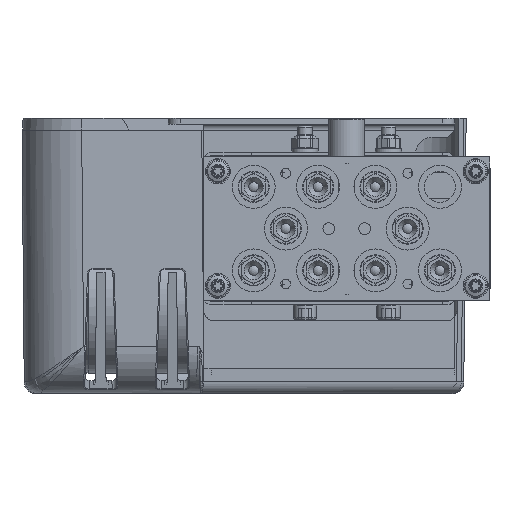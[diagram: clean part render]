
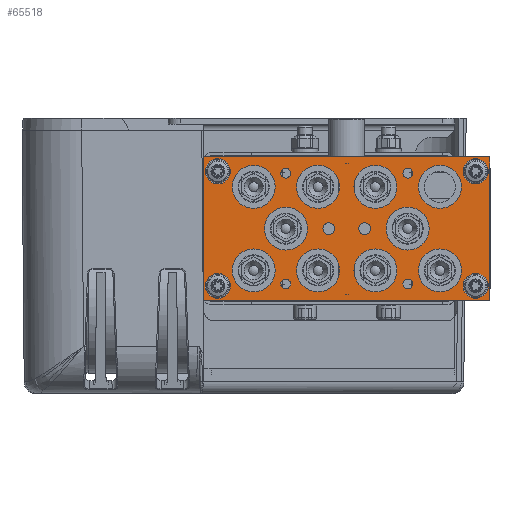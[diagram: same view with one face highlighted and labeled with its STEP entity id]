
A CAD part, left-side view. The second image highlights one B-rep face of the part: STEP entity #65518.
In plain terms, the highlighted planar face has unit normal (-1, 0, 0) as drawn and (0, 0, 1) by its records, which use the part's own axes.
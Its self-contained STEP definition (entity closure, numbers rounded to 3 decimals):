
#5920=LINE('',#113017,#8633);
#5924=LINE('',#113028,#8637);
#5928=LINE('',#113173,#8641);
#5929=LINE('',#113174,#8642);
#8633=VECTOR('',#76492,1000.);
#8637=VECTOR('',#76500,1000.);
#8641=VECTOR('',#76660,1000.);
#8642=VECTOR('',#76661,1000.);
#10747=PLANE('',#69451);
#16174=ORIENTED_EDGE('',*,*,#29800,.F.);
#16175=ORIENTED_EDGE('',*,*,#29801,.F.);
#16176=ORIENTED_EDGE('',*,*,#29802,.F.);
#16177=ORIENTED_EDGE('',*,*,#29803,.F.);
#16178=ORIENTED_EDGE('',*,*,#29804,.F.);
#16179=ORIENTED_EDGE('',*,*,#29805,.F.);
#16180=ORIENTED_EDGE('',*,*,#29806,.T.);
#16181=ORIENTED_EDGE('',*,*,#29807,.T.);
#16182=ORIENTED_EDGE('',*,*,#29808,.T.);
#16183=ORIENTED_EDGE('',*,*,#29809,.T.);
#16184=ORIENTED_EDGE('',*,*,#29810,.T.);
#16185=ORIENTED_EDGE('',*,*,#29811,.T.);
#16186=ORIENTED_EDGE('',*,*,#29812,.T.);
#16187=ORIENTED_EDGE('',*,*,#29742,.T.);
#16188=ORIENTED_EDGE('',*,*,#29813,.T.);
#16189=ORIENTED_EDGE('',*,*,#29747,.T.);
#16190=ORIENTED_EDGE('',*,*,#29814,.T.);
#16191=ORIENTED_EDGE('',*,*,#29815,.T.);
#16192=ORIENTED_EDGE('',*,*,#29816,.T.);
#16193=ORIENTED_EDGE('',*,*,#29817,.T.);
#16194=ORIENTED_EDGE('',*,*,#29818,.T.);
#16195=ORIENTED_EDGE('',*,*,#29819,.T.);
#16196=ORIENTED_EDGE('',*,*,#29820,.T.);
#16197=ORIENTED_EDGE('',*,*,#29821,.T.);
#29742=EDGE_CURVE('',#36840,#36839,#5920,.T.);
#29747=EDGE_CURVE('',#36845,#36844,#5924,.T.);
#29800=EDGE_CURVE('',#36895,#36895,#41340,.T.);
#29801=EDGE_CURVE('',#36896,#36896,#41341,.T.);
#29802=EDGE_CURVE('',#36897,#36897,#41342,.T.);
#29803=EDGE_CURVE('',#36898,#36898,#41343,.T.);
#29804=EDGE_CURVE('',#36899,#36899,#41344,.T.);
#29805=EDGE_CURVE('',#36900,#36900,#41345,.T.);
#29806=EDGE_CURVE('',#36901,#36901,#41346,.T.);
#29807=EDGE_CURVE('',#36902,#36902,#41347,.T.);
#29808=EDGE_CURVE('',#36903,#36903,#41348,.T.);
#29809=EDGE_CURVE('',#36904,#36904,#41349,.T.);
#29810=EDGE_CURVE('',#36905,#36905,#41350,.T.);
#29811=EDGE_CURVE('',#36906,#36906,#41351,.T.);
#29812=EDGE_CURVE('',#36907,#36907,#41352,.T.);
#29813=EDGE_CURVE('',#36839,#36845,#5928,.T.);
#29814=EDGE_CURVE('',#36844,#36840,#5929,.T.);
#29815=EDGE_CURVE('',#36908,#36908,#41353,.T.);
#29816=EDGE_CURVE('',#36909,#36909,#41354,.T.);
#29817=EDGE_CURVE('',#36910,#36910,#41355,.T.);
#29818=EDGE_CURVE('',#36911,#36911,#41356,.T.);
#29819=EDGE_CURVE('',#36912,#36912,#41357,.T.);
#29820=EDGE_CURVE('',#36913,#36913,#41358,.T.);
#29821=EDGE_CURVE('',#36914,#36914,#41359,.T.);
#36839=VERTEX_POINT('',#113016);
#36840=VERTEX_POINT('',#113018);
#36844=VERTEX_POINT('',#113027);
#36845=VERTEX_POINT('',#113029);
#36895=VERTEX_POINT('',#113148);
#36896=VERTEX_POINT('',#113150);
#36897=VERTEX_POINT('',#113152);
#36898=VERTEX_POINT('',#113154);
#36899=VERTEX_POINT('',#113156);
#36900=VERTEX_POINT('',#113158);
#36901=VERTEX_POINT('',#113160);
#36902=VERTEX_POINT('',#113162);
#36903=VERTEX_POINT('',#113164);
#36904=VERTEX_POINT('',#113166);
#36905=VERTEX_POINT('',#113168);
#36906=VERTEX_POINT('',#113170);
#36907=VERTEX_POINT('',#113172);
#36908=VERTEX_POINT('',#113176);
#36909=VERTEX_POINT('',#113178);
#36910=VERTEX_POINT('',#113180);
#36911=VERTEX_POINT('',#113182);
#36912=VERTEX_POINT('',#113184);
#36913=VERTEX_POINT('',#113186);
#36914=VERTEX_POINT('',#113188);
#41340=CIRCLE('',#69452,2.067);
#41341=CIRCLE('',#69453,2.067);
#41342=CIRCLE('',#69454,2.067);
#41343=CIRCLE('',#69455,2.067);
#41344=CIRCLE('',#69456,2.459);
#41345=CIRCLE('',#69457,2.459);
#41346=CIRCLE('',#69458,9.);
#41347=CIRCLE('',#69459,9.);
#41348=CIRCLE('',#69460,9.);
#41349=CIRCLE('',#69461,9.);
#41350=CIRCLE('',#69462,9.);
#41351=CIRCLE('',#69463,5.25);
#41352=CIRCLE('',#69464,5.25);
#41353=CIRCLE('',#69465,5.25);
#41354=CIRCLE('',#69466,9.);
#41355=CIRCLE('',#69467,9.);
#41356=CIRCLE('',#69468,9.);
#41357=CIRCLE('',#69469,9.);
#41358=CIRCLE('',#69470,9.);
#41359=CIRCLE('',#69471,5.25);
#43874=EDGE_LOOP('',(#16174));
#43875=EDGE_LOOP('',(#16175));
#43876=EDGE_LOOP('',(#16176));
#43877=EDGE_LOOP('',(#16177));
#43878=EDGE_LOOP('',(#16178));
#43879=EDGE_LOOP('',(#16179));
#43880=EDGE_LOOP('',(#16180));
#43881=EDGE_LOOP('',(#16181));
#43882=EDGE_LOOP('',(#16182));
#43883=EDGE_LOOP('',(#16183));
#43884=EDGE_LOOP('',(#16184));
#43885=EDGE_LOOP('',(#16185));
#43886=EDGE_LOOP('',(#16186));
#43887=EDGE_LOOP('',(#16187,#16188,#16189,#16190));
#43888=EDGE_LOOP('',(#16191));
#43889=EDGE_LOOP('',(#16192));
#43890=EDGE_LOOP('',(#16193));
#43891=EDGE_LOOP('',(#16194));
#43892=EDGE_LOOP('',(#16195));
#43893=EDGE_LOOP('',(#16196));
#43894=EDGE_LOOP('',(#16197));
#47870=FACE_BOUND('',#43874,.T.);
#47871=FACE_BOUND('',#43875,.T.);
#47872=FACE_BOUND('',#43876,.T.);
#47873=FACE_BOUND('',#43877,.T.);
#47874=FACE_BOUND('',#43878,.T.);
#47875=FACE_BOUND('',#43879,.T.);
#47876=FACE_BOUND('',#43880,.T.);
#47877=FACE_BOUND('',#43881,.T.);
#47878=FACE_BOUND('',#43882,.T.);
#47879=FACE_BOUND('',#43883,.T.);
#47880=FACE_BOUND('',#43884,.T.);
#47881=FACE_BOUND('',#43885,.T.);
#47882=FACE_BOUND('',#43886,.T.);
#47883=FACE_BOUND('',#43887,.T.);
#47884=FACE_BOUND('',#43888,.T.);
#47885=FACE_BOUND('',#43889,.T.);
#47886=FACE_BOUND('',#43890,.T.);
#47887=FACE_BOUND('',#43891,.T.);
#47888=FACE_BOUND('',#43892,.T.);
#47889=FACE_BOUND('',#43893,.T.);
#47890=FACE_BOUND('',#43894,.T.);
#65518=ADVANCED_FACE('',(#47870,#47871,#47872,#47873,#47874,#47875,#47876,
#47877,#47878,#47879,#47880,#47881,#47882,#47883,#47884,#47885,#47886,#47887,
#47888,#47889,#47890),#10747,.T.);
#69451=AXIS2_PLACEMENT_3D('',#113146,#76632,#76633);
#69452=AXIS2_PLACEMENT_3D('',#113147,#76634,#76635);
#69453=AXIS2_PLACEMENT_3D('',#113149,#76636,#76637);
#69454=AXIS2_PLACEMENT_3D('',#113151,#76638,#76639);
#69455=AXIS2_PLACEMENT_3D('',#113153,#76640,#76641);
#69456=AXIS2_PLACEMENT_3D('',#113155,#76642,#76643);
#69457=AXIS2_PLACEMENT_3D('',#113157,#76644,#76645);
#69458=AXIS2_PLACEMENT_3D('',#113159,#76646,#76647);
#69459=AXIS2_PLACEMENT_3D('',#113161,#76648,#76649);
#69460=AXIS2_PLACEMENT_3D('',#113163,#76650,#76651);
#69461=AXIS2_PLACEMENT_3D('',#113165,#76652,#76653);
#69462=AXIS2_PLACEMENT_3D('',#113167,#76654,#76655);
#69463=AXIS2_PLACEMENT_3D('',#113169,#76656,#76657);
#69464=AXIS2_PLACEMENT_3D('',#113171,#76658,#76659);
#69465=AXIS2_PLACEMENT_3D('',#113175,#76662,#76663);
#69466=AXIS2_PLACEMENT_3D('',#113177,#76664,#76665);
#69467=AXIS2_PLACEMENT_3D('',#113179,#76666,#76667);
#69468=AXIS2_PLACEMENT_3D('',#113181,#76668,#76669);
#69469=AXIS2_PLACEMENT_3D('',#113183,#76670,#76671);
#69470=AXIS2_PLACEMENT_3D('',#113185,#76672,#76673);
#69471=AXIS2_PLACEMENT_3D('',#113187,#76674,#76675);
#76492=DIRECTION('',(-1.,0.,0.));
#76500=DIRECTION('',(1.,0.,0.));
#76632=DIRECTION('',(0.,0.,1.));
#76633=DIRECTION('',(1.,0.,0.));
#76634=DIRECTION('',(0.,0.,1.));
#76635=DIRECTION('',(1.,0.,0.));
#76636=DIRECTION('',(0.,0.,1.));
#76637=DIRECTION('',(1.,0.,0.));
#76638=DIRECTION('',(0.,0.,1.));
#76639=DIRECTION('',(1.,0.,0.));
#76640=DIRECTION('',(0.,0.,1.));
#76641=DIRECTION('',(1.,0.,0.));
#76642=DIRECTION('',(0.,0.,1.));
#76643=DIRECTION('',(1.,0.,0.));
#76644=DIRECTION('',(0.,0.,1.));
#76645=DIRECTION('',(1.,0.,0.));
#76646=DIRECTION('',(0.,0.,-1.));
#76647=DIRECTION('',(1.,0.,0.));
#76648=DIRECTION('',(0.,0.,-1.));
#76649=DIRECTION('',(1.,0.,0.));
#76650=DIRECTION('',(0.,0.,-1.));
#76651=DIRECTION('',(1.,0.,0.));
#76652=DIRECTION('',(0.,0.,-1.));
#76653=DIRECTION('',(1.,0.,0.));
#76654=DIRECTION('',(0.,0.,-1.));
#76655=DIRECTION('',(1.,0.,0.));
#76656=DIRECTION('',(0.,0.,-1.));
#76657=DIRECTION('',(1.,0.,0.));
#76658=DIRECTION('',(0.,0.,-1.));
#76659=DIRECTION('',(1.,0.,0.));
#76660=DIRECTION('',(0.,-1.,0.));
#76661=DIRECTION('',(0.,1.,0.));
#76662=DIRECTION('',(0.,0.,-1.));
#76663=DIRECTION('',(1.,0.,0.));
#76664=DIRECTION('',(0.,0.,-1.));
#76665=DIRECTION('',(1.,0.,0.));
#76666=DIRECTION('',(0.,0.,-1.));
#76667=DIRECTION('',(1.,0.,0.));
#76668=DIRECTION('',(0.,0.,-1.));
#76669=DIRECTION('',(1.,0.,0.));
#76670=DIRECTION('',(0.,0.,-1.));
#76671=DIRECTION('',(1.,0.,0.));
#76672=DIRECTION('',(0.,0.,-1.));
#76673=DIRECTION('',(1.,0.,0.));
#76674=DIRECTION('',(0.,0.,-1.));
#76675=DIRECTION('',(1.,0.,0.));
#113016=CARTESIAN_POINT('',(-60.,30.,15.));
#113017=CARTESIAN_POINT('',(60.,30.,15.));
#113018=CARTESIAN_POINT('',(60.,30.,15.));
#113027=CARTESIAN_POINT('',(60.,-30.,15.));
#113028=CARTESIAN_POINT('',(-60.,-30.,15.));
#113029=CARTESIAN_POINT('',(-60.,-30.,15.));
#113146=CARTESIAN_POINT('',(-60.,30.,15.));
#113147=CARTESIAN_POINT('',(25.6,23.2,15.));
#113148=CARTESIAN_POINT('',(27.667,23.2,15.));
#113149=CARTESIAN_POINT('',(-25.6,23.2,15.));
#113150=CARTESIAN_POINT('',(-23.533,23.2,15.));
#113151=CARTESIAN_POINT('',(-25.6,-23.2,15.));
#113152=CARTESIAN_POINT('',(-23.533,-23.2,15.));
#113153=CARTESIAN_POINT('',(25.6,-23.2,15.));
#113154=CARTESIAN_POINT('',(27.667,-23.2,15.));
#113155=CARTESIAN_POINT('',(7.5,0.,15.));
#113156=CARTESIAN_POINT('',(9.959,0.,15.));
#113157=CARTESIAN_POINT('',(-7.5,0.,15.));
#113158=CARTESIAN_POINT('',(-5.041,0.,15.));
#113159=CARTESIAN_POINT('',(25.5,0.,15.));
#113160=CARTESIAN_POINT('',(34.5,0.,15.));
#113161=CARTESIAN_POINT('',(39.,17.5,15.));
#113162=CARTESIAN_POINT('',(48.,17.5,15.));
#113163=CARTESIAN_POINT('',(-39.,-17.5,15.));
#113164=CARTESIAN_POINT('',(-30.,-17.5,15.));
#113165=CARTESIAN_POINT('',(-12.,-17.5,15.));
#113166=CARTESIAN_POINT('',(-3.,-17.5,15.));
#113167=CARTESIAN_POINT('',(12.,17.5,15.));
#113168=CARTESIAN_POINT('',(21.,17.5,15.));
#113169=CARTESIAN_POINT('',(-54.,-24.,15.));
#113170=CARTESIAN_POINT('',(-48.75,-24.,15.));
#113171=CARTESIAN_POINT('',(54.,24.,15.));
#113172=CARTESIAN_POINT('',(59.25,24.,15.));
#113173=CARTESIAN_POINT('',(-60.,30.,15.));
#113174=CARTESIAN_POINT('',(60.,-30.,15.));
#113175=CARTESIAN_POINT('',(54.,-24.,15.));
#113176=CARTESIAN_POINT('',(59.25,-24.,15.));
#113177=CARTESIAN_POINT('',(-12.,17.5,15.));
#113178=CARTESIAN_POINT('',(-3.,17.5,15.));
#113179=CARTESIAN_POINT('',(12.,-17.5,15.));
#113180=CARTESIAN_POINT('',(21.,-17.5,15.));
#113181=CARTESIAN_POINT('',(-39.,17.5,15.));
#113182=CARTESIAN_POINT('',(-30.,17.5,15.));
#113183=CARTESIAN_POINT('',(39.,-17.5,15.));
#113184=CARTESIAN_POINT('',(48.,-17.5,15.));
#113185=CARTESIAN_POINT('',(-25.5,0.,15.));
#113186=CARTESIAN_POINT('',(-16.5,0.,15.));
#113187=CARTESIAN_POINT('',(-54.,24.,15.));
#113188=CARTESIAN_POINT('',(-48.75,24.,15.));
